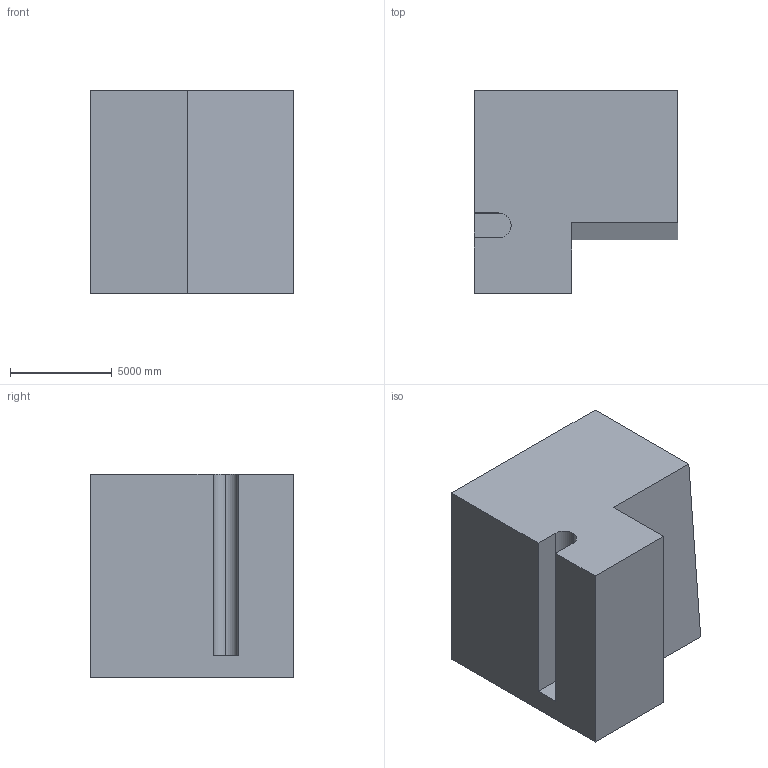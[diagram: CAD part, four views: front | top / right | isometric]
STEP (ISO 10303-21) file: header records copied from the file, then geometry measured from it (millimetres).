
FILE_DESCRIPTION (( 'STEP AP203' ), '1' );
FILE_NAME ('179.STEP', '2022-07-28T13:49:37', ( 'user' ), ( '' ), 'SwSTEP 2.0', 'SolidWorks 2021', '' );
FILE_SCHEMA (( 'CONFIG_CONTROL_DESIGN' ));
Length unit declared in the file: centimetre
Products named in the file (1): 179
Bounding box: 10000 x 10000 x 10000 mm (x, y, z)
Volume: 821446486355.3 mm3; surface area: 595734888.8 mm2
Topology: 1 solids, 1 shells, 13 faces, 33 edges, 22 vertices
Faces by surface type: plane 11, cylinder 2
Entity records: 468 total; most frequent: CARTESIAN_POINT 69, ORIENTED_EDGE 66, DIRECTION 65, EDGE_CURVE 33, VECTOR 29, LINE 29, VERTEX_POINT 22, AXIS2_PLACEMENT_3D 18
